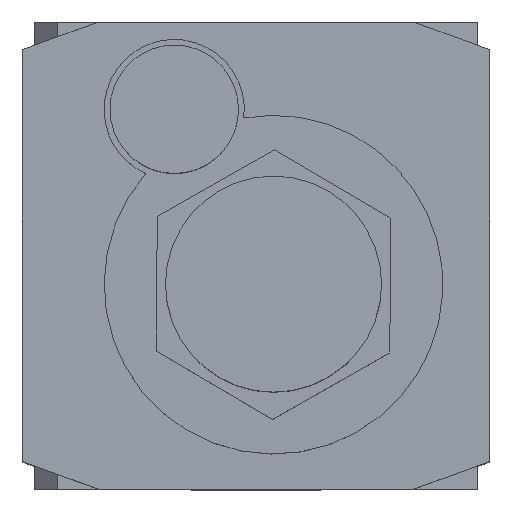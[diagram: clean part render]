
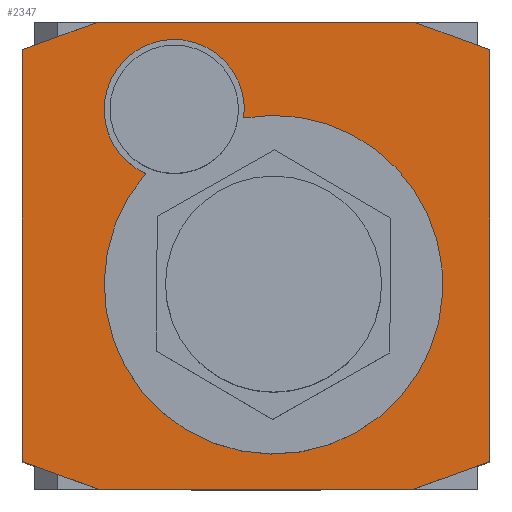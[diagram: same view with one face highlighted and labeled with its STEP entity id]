
A CAD part, top view. The second image highlights one B-rep face of the part: STEP entity #2347.
In plain terms, the highlighted planar face has unit normal (0, 0, 1).
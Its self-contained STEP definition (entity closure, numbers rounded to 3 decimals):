
#1178=CARTESIAN_POINT('',(-12.956,13.225,34.0));
#1179=VERTEX_POINT('',#1178);
#1188=CARTESIAN_POINT('',(-9.439,7.018,34.0));
#1189=VERTEX_POINT('',#1188);
#1190=CARTESIAN_POINT('',(-7.,12.5,34.0));
#1191=DIRECTION('',(0.0,0.0,-1.));
#1192=DIRECTION('',(-0.993,0.121,0.0));
#1193=AXIS2_PLACEMENT_3D('',#1190,#1191,#1192);
#1194=CIRCLE('',#1193,6.);
#1195=EDGE_CURVE('',#1189,#1179,#1194,.T.);
#1220=CARTESIAN_POINT('',(12.439,-12.018,34.0));
#1221=VERTEX_POINT('',#1220);
#1230=CARTESIAN_POINT('',(-1.044,11.775,34.0));
#1231=VERTEX_POINT('',#1230);
#1232=CARTESIAN_POINT('',(1.5,-2.5,34.0));
#1233=DIRECTION('',(0.0,0.0,-1.0));
#1234=DIRECTION('',(0.754,-0.656,0.0));
#1235=AXIS2_PLACEMENT_3D('',#1232,#1233,#1234);
#1236=CIRCLE('',#1235,14.5);
#1237=EDGE_CURVE('',#1231,#1221,#1236,.T.);
#2258=CARTESIAN_POINT('',(0.,0.,34.0));
#2259=DIRECTION('',(0.0,0.0,1.0));
#2260=DIRECTION('',(1.0,0.0,0.0));
#2261=AXIS2_PLACEMENT_3D('',#2258,#2259,#2260);
#2262=PLANE('',#2261);
#2263=CARTESIAN_POINT('',(-13.5,-20.0,34.0));
#2264=VERTEX_POINT('',#2263);
#2265=CARTESIAN_POINT('',(-20.0,-17.634,34.0));
#2266=VERTEX_POINT('',#2265);
#2267=CARTESIAN_POINT('',(-13.5,-20.0,34.0));
#2268=DIRECTION('',(-0.94,0.342,0.0));
#2269=VECTOR('',#2268,6.917);
#2270=LINE('',#2267,#2269);
#2271=EDGE_CURVE('',#2264,#2266,#2270,.T.);
#2272=ORIENTED_EDGE('',*,*,#2271,.F.);
#2273=CARTESIAN_POINT('',(13.5,-20.0,34.0));
#2274=VERTEX_POINT('',#2273);
#2275=CARTESIAN_POINT('',(13.5,-20.0,34.0));
#2276=DIRECTION('',(-1.0,0.0,0.0));
#2277=VECTOR('',#2276,27.);
#2278=LINE('',#2275,#2277);
#2279=EDGE_CURVE('',#2274,#2264,#2278,.T.);
#2280=ORIENTED_EDGE('',*,*,#2279,.F.);
#2281=CARTESIAN_POINT('',(20.0,-17.634,34.0));
#2282=VERTEX_POINT('',#2281);
#2283=CARTESIAN_POINT('',(20.0,-17.634,34.0));
#2284=DIRECTION('',(-0.94,-0.342,0.0));
#2285=VECTOR('',#2284,6.917);
#2286=LINE('',#2283,#2285);
#2287=EDGE_CURVE('',#2282,#2274,#2286,.T.);
#2288=ORIENTED_EDGE('',*,*,#2287,.F.);
#2289=CARTESIAN_POINT('',(20.0,17.634,34.0));
#2290=VERTEX_POINT('',#2289);
#2291=CARTESIAN_POINT('',(20.0,17.634,34.0));
#2292=DIRECTION('',(0.0,-1.0,0.0));
#2293=VECTOR('',#2292,35.268);
#2294=LINE('',#2291,#2293);
#2295=EDGE_CURVE('',#2290,#2282,#2294,.T.);
#2296=ORIENTED_EDGE('',*,*,#2295,.F.);
#2297=CARTESIAN_POINT('',(13.5,20.0,34.0));
#2298=VERTEX_POINT('',#2297);
#2299=CARTESIAN_POINT('',(13.5,20.0,34.0));
#2300=DIRECTION('',(0.94,-0.342,0.0));
#2301=VECTOR('',#2300,6.917);
#2302=LINE('',#2299,#2301);
#2303=EDGE_CURVE('',#2298,#2290,#2302,.T.);
#2304=ORIENTED_EDGE('',*,*,#2303,.F.);
#2305=CARTESIAN_POINT('',(-13.5,20.0,34.0));
#2306=VERTEX_POINT('',#2305);
#2307=CARTESIAN_POINT('',(-13.5,20.0,34.0));
#2308=DIRECTION('',(1.0,0.0,0.0));
#2309=VECTOR('',#2308,27.);
#2310=LINE('',#2307,#2309);
#2311=EDGE_CURVE('',#2306,#2298,#2310,.T.);
#2312=ORIENTED_EDGE('',*,*,#2311,.F.);
#2313=CARTESIAN_POINT('',(-20.0,17.634,34.0));
#2314=VERTEX_POINT('',#2313);
#2315=CARTESIAN_POINT('',(-20.0,17.634,34.0));
#2316=DIRECTION('',(0.94,0.342,0.0));
#2317=VECTOR('',#2316,6.917);
#2318=LINE('',#2315,#2317);
#2319=EDGE_CURVE('',#2314,#2306,#2318,.T.);
#2320=ORIENTED_EDGE('',*,*,#2319,.F.);
#2321=CARTESIAN_POINT('',(-20.0,-17.634,34.0));
#2322=DIRECTION('',(0.0,1.0,0.0));
#2323=VECTOR('',#2322,35.268);
#2324=LINE('',#2321,#2323);
#2325=EDGE_CURVE('',#2266,#2314,#2324,.T.);
#2326=ORIENTED_EDGE('',*,*,#2325,.F.);
#2327=EDGE_LOOP('',(#2272,#2280,#2288,#2296,#2304,#2312,#2320,#2326));
#2328=FACE_OUTER_BOUND('',#2327,.T.);
#2329=ORIENTED_EDGE('',*,*,#1195,.T.);
#2330=CARTESIAN_POINT('',(-7.,12.5,34.0));
#2331=DIRECTION('',(0.0,0.0,-1.));
#2332=DIRECTION('',(-0.993,0.121,0.0));
#2333=AXIS2_PLACEMENT_3D('',#2330,#2331,#2332);
#2334=CIRCLE('',#2333,6.);
#2335=EDGE_CURVE('',#1179,#1231,#2334,.T.);
#2336=ORIENTED_EDGE('',*,*,#2335,.T.);
#2337=ORIENTED_EDGE('',*,*,#1237,.T.);
#2338=CARTESIAN_POINT('',(1.5,-2.5,34.0));
#2339=DIRECTION('',(0.0,0.0,-1.0));
#2340=DIRECTION('',(0.754,-0.656,0.0));
#2341=AXIS2_PLACEMENT_3D('',#2338,#2339,#2340);
#2342=CIRCLE('',#2341,14.5);
#2343=EDGE_CURVE('',#1221,#1189,#2342,.T.);
#2344=ORIENTED_EDGE('',*,*,#2343,.T.);
#2345=EDGE_LOOP('',(#2329,#2336,#2337,#2344));
#2346=FACE_BOUND('',#2345,.T.);
#2347=ADVANCED_FACE('',(#2328,#2346),#2262,.T.);
